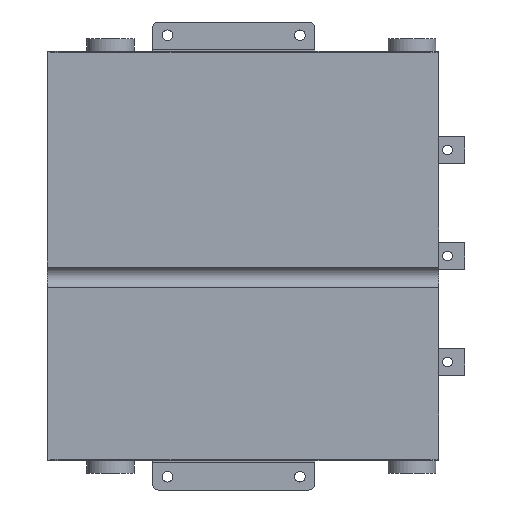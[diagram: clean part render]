
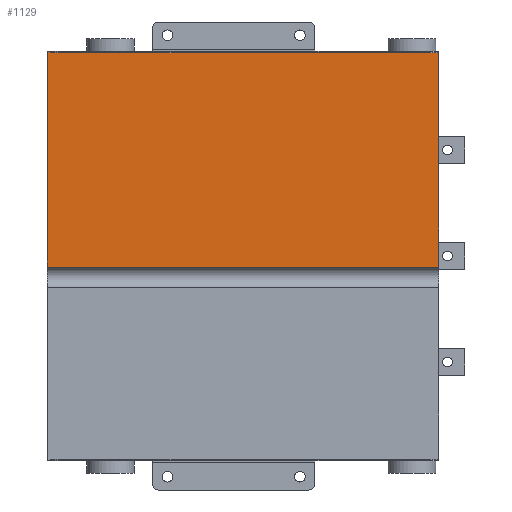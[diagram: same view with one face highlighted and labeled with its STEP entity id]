
A CAD part, front view. The second image highlights one B-rep face of the part: STEP entity #1129.
In plain terms, the highlighted planar face has unit normal (0, -1, 0).
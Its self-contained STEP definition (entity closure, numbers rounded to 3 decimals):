
#1129=ADVANCED_FACE('',(#3658),#3660,.T.);
#3658=FACE_BOUND('',#3659,.T.);
#3659=EDGE_LOOP('',(#5590,#5591,#5592,#5593,#5594,#5595));
#3660=PLANE('',#3661);
#3661=AXIS2_PLACEMENT_3D('',#3662,#3663,#3664);
#3662=CARTESIAN_POINT('',(443.,-40.,217.519));
#3663=DIRECTION('',(0.,-1.,0.));
#3664=DIRECTION('',(0.,0.,1.));
#5590=ORIENTED_EDGE('',*,*,#6843,.F.);
#5591=ORIENTED_EDGE('',*,*,#6844,.T.);
#5592=ORIENTED_EDGE('',*,*,#6781,.F.);
#5593=ORIENTED_EDGE('',*,*,#6685,.F.);
#5594=ORIENTED_EDGE('',*,*,#6842,.F.);
#5595=ORIENTED_EDGE('',*,*,#6788,.T.);
#6685=EDGE_CURVE('',#7634,#7636,#7637,.T.);
#6781=EDGE_CURVE('',#7636,#7826,#7827,.T.);
#6788=EDGE_CURVE('',#7839,#7840,#7841,.T.);
#6842=EDGE_CURVE('',#7839,#7634,#7922,.T.);
#6843=EDGE_CURVE('',#7923,#7840,#7924,.F.);
#6844=EDGE_CURVE('',#7923,#7826,#7925,.T.);
#7634=VERTEX_POINT('',#9499);
#7636=VERTEX_POINT('',#9503);
#7637=LINE('',#9504,#9505);
#7826=VERTEX_POINT('',#9893);
#7827=LINE('',#9894,#9895);
#7839=VERTEX_POINT('',#9923);
#7840=VERTEX_POINT('',#9924);
#7841=LINE('',#9925,#9926);
#7922=LINE('',#10124,#10125);
#7923=VERTEX_POINT('',#10127);
#7924=LINE('',#10128,#10129);
#7925=LINE('',#10131,#10132);
#9499=CARTESIAN_POINT('',(0.,-40.,217.519));
#9503=CARTESIAN_POINT('',(0.,-40.,462.));
#9504=CARTESIAN_POINT('',(0.,-40.,217.519));
#9505=VECTOR('',#9506,1.);
#9506=DIRECTION('',(0.,0.,1.));
#9893=CARTESIAN_POINT('',(3.589,-40.,462.));
#9894=CARTESIAN_POINT('',(0.,-40.,462.));
#9895=VECTOR('',#9896,1.);
#9896=DIRECTION('',(1.,0.,0.));
#9923=CARTESIAN_POINT('',(443.,-40.,217.519));
#9924=CARTESIAN_POINT('',(443.,-40.,460.));
#9925=CARTESIAN_POINT('',(443.,-40.,217.519));
#9926=VECTOR('',#9927,1.);
#9927=DIRECTION('',(0.,0.,1.));
#10124=CARTESIAN_POINT('',(443.,-40.,217.519));
#10125=VECTOR('',#10126,1.);
#10126=DIRECTION('',(-1.,0.,0.));
#10127=CARTESIAN_POINT('',(3.589,-40.,460.));
#10128=CARTESIAN_POINT('',(443.,-40.,460.));
#10129=VECTOR('',#10130,1.);
#10130=DIRECTION('',(-1.,0.,0.));
#10131=CARTESIAN_POINT('',(3.589,-40.,460.));
#10132=VECTOR('',#10133,1.);
#10133=DIRECTION('',(0.,0.,1.));
